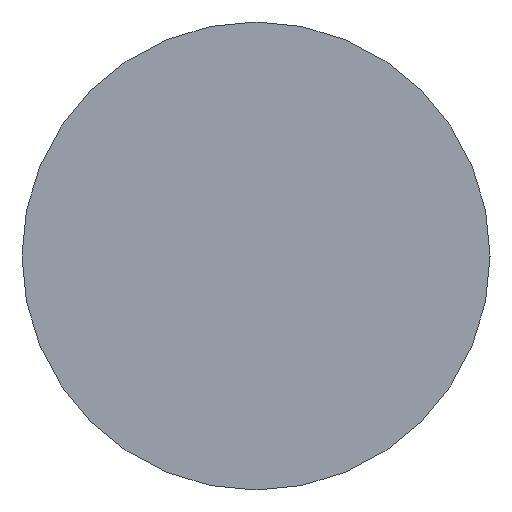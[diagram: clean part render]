
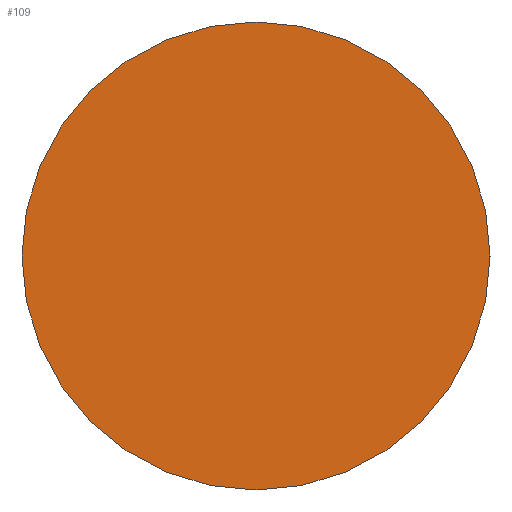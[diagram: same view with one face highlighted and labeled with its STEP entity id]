
A CAD part, left-side view. The second image highlights one B-rep face of the part: STEP entity #109.
In plain terms, the highlighted planar face has unit normal (-1, 0, 0).
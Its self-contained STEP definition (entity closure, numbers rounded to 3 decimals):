
#31 = CYLINDRICAL_SURFACE('',#32,0.6);
#32 = AXIS2_PLACEMENT_3D('',#33,#34,#35);
#33 = CARTESIAN_POINT('',(258.5,7.271,-17.554));
#34 = DIRECTION('',(1.,0.,0.));
#35 = DIRECTION('',(-0.,0.,1.));
#56 = VERTEX_POINT('',#57);
#57 = CARTESIAN_POINT('',(258.5,7.271,-16.954));
#78 = EDGE_CURVE('',#56,#56,#79,.T.);
#79 = SURFACE_CURVE('',#80,(#85,#92),.PCURVE_S1.);
#80 = CIRCLE('',#81,0.6);
#81 = AXIS2_PLACEMENT_3D('',#82,#83,#84);
#82 = CARTESIAN_POINT('',(258.5,7.271,-17.554));
#83 = DIRECTION('',(1.,0.,0.));
#84 = DIRECTION('',(-0.,0.,1.));
#85 = PCURVE('',#31,#86);
#86 = DEFINITIONAL_REPRESENTATION('',(#87),#91);
#87 = LINE('',#88,#89);
#88 = CARTESIAN_POINT('',(0.,0.));
#89 = VECTOR('',#90,1.);
#90 = DIRECTION('',(1.,0.));
#91 = ( GEOMETRIC_REPRESENTATION_CONTEXT(2) 
PARAMETRIC_REPRESENTATION_CONTEXT() REPRESENTATION_CONTEXT('2D SPACE',''
  ) );
#92 = PCURVE('',#93,#98);
#93 = PLANE('',#94);
#94 = AXIS2_PLACEMENT_3D('',#95,#96,#97);
#95 = CARTESIAN_POINT('',(258.5,7.271,-17.554));
#96 = DIRECTION('',(1.,0.,0.));
#97 = DIRECTION('',(-0.,0.,1.));
#98 = DEFINITIONAL_REPRESENTATION('',(#99),#103);
#99 = CIRCLE('',#100,0.6);
#100 = AXIS2_PLACEMENT_2D('',#101,#102);
#101 = CARTESIAN_POINT('',(0.,0.));
#102 = DIRECTION('',(1.,0.));
#103 = ( GEOMETRIC_REPRESENTATION_CONTEXT(2) 
PARAMETRIC_REPRESENTATION_CONTEXT() REPRESENTATION_CONTEXT('2D SPACE',''
  ) );
#109 = ADVANCED_FACE('',(#110),#93,.F.);
#110 = FACE_BOUND('',#111,.T.);
#111 = EDGE_LOOP('',(#112));
#112 = ORIENTED_EDGE('',*,*,#78,.F.);
